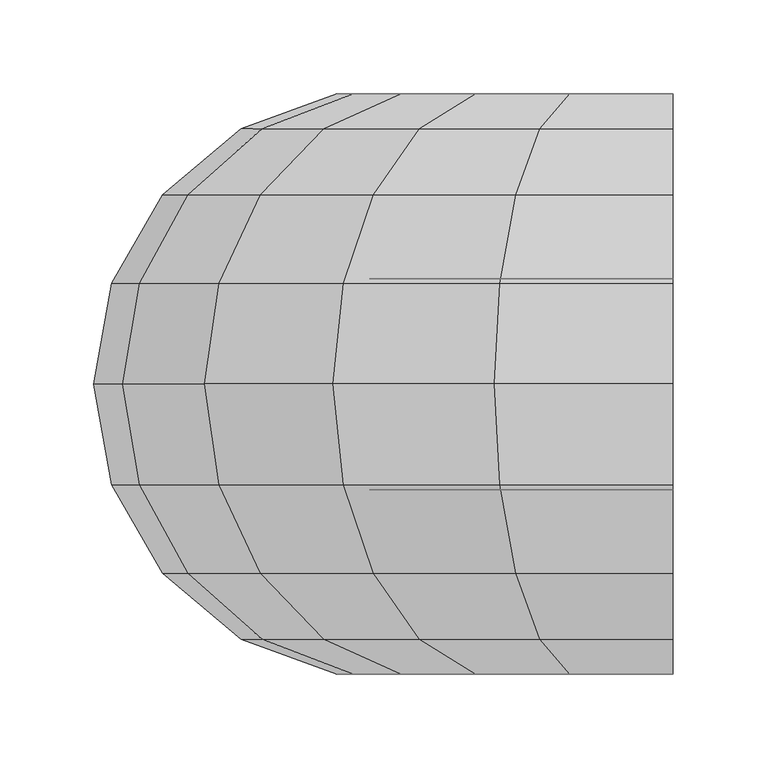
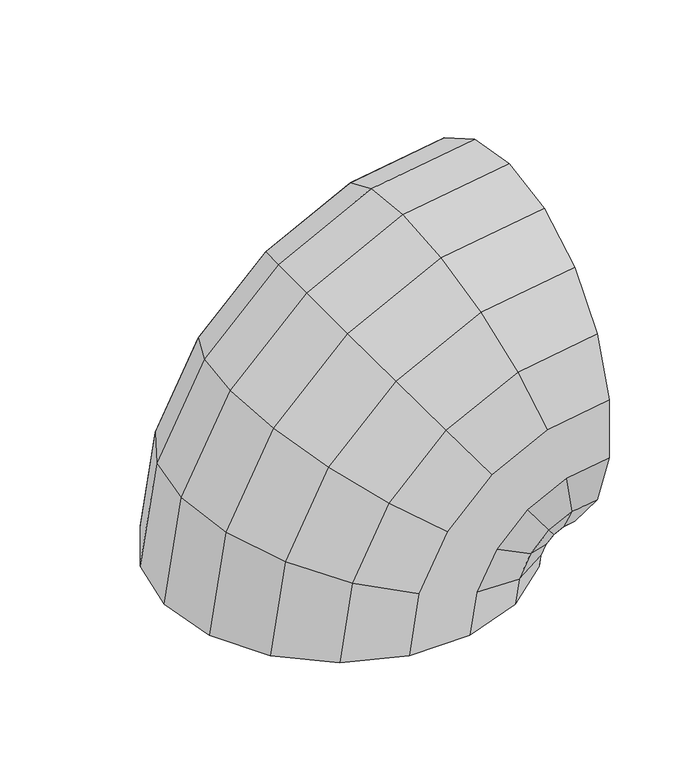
"""IFC4 building model written with IfcOpenShell, lengths in millimetres: proxy geometry, Rohrbogen 7887 : Rohrbogen 7887."""

import ifcopenshell
import ifcopenshell.guid

model = None  # the IFC model being written
_history = None  # IfcOwnerHistory: only IFC2X3 demands one
_inside = {}  # id of a spatial element -> (the spatial element, [elements in it])
_under = {}  # id of a project, library or spatial element -> (it, [spatial elements below it])
_declared = {}  # id of a project -> (the project, [libraries it declares])
_typed = {}  # id of a type object -> (the type object, [elements of that type])
_made_of = {}  # id of a material, layer set ... -> (it, [elements and type objects made of it])


def new_model(schema):
    """Start an empty IFC model of exactly this schema.

    Asked for "IFC4X3", IfcOpenShell would pick the latest addendum, in which some entities
    have other attributes; the version numbers below select the first issue.
    IFC2X3 requires an IfcOwnerHistory on every rooted entity: one is made here for all.
    """
    global model, _history
    if schema == "IFC4X3":
        model = ifcopenshell.file(schema_version=(4, 3, 0, 0))
    else:
        model = ifcopenshell.file(schema=schema)
    _inside.clear()
    _under.clear()
    _declared.clear()
    _typed.clear()
    _made_of.clear()
    _history = None
    if model.schema == "IFC2X3":
        org = make("IfcOrganization", Name="unknown")
        user = make(
            "IfcPersonAndOrganization",
            ThePerson=make("IfcPerson", FamilyName="unknown"),
            TheOrganization=org,
        )
        app = make(
            "IfcApplication",
            ApplicationDeveloper=org,
            Version="unknown",
            ApplicationFullName="unknown",
            ApplicationIdentifier="unknown",
        )
        _history = make(
            "IfcOwnerHistory",
            OwningUser=user,
            OwningApplication=app,
            ChangeAction="ADDED",
            CreationDate=0,
        )
    return model


def make(cls, **values):
    """One entity of the class cls with the attributes given. An attribute that is None is left unset."""
    return model.create_entity(
        cls, **{name: value for name, value in values.items() if value is not None}
    )


def rooted(cls, **values):
    """An entity with a GlobalId (a new one), such as an element, a storey or a relation."""
    return make(cls, GlobalId=ifcopenshell.guid.new(), OwnerHistory=_history, **values)


def si_unit(unit_type, name, prefix=None):
    """IfcSIUnit, for example si_unit("LENGTHUNIT", "METRE", prefix="MILLI")."""
    return make("IfcSIUnit", UnitType=unit_type, Prefix=prefix, Name=name)


def assignment(units):
    """IfcUnitAssignment: the units of a project."""
    return None if units is None else make("IfcUnitAssignment", Units=units)


def point(xyz):
    """IfcCartesianPoint."""
    return None if xyz is None else make("IfcCartesianPoint", Coordinates=xyz)


def direction(xyz):
    """IfcDirection."""
    return None if xyz is None else make("IfcDirection", DirectionRatios=xyz)


def frame(location, z_axis=None, x_axis=None):
    """IfcAxis2Placement3D, a coordinate frame: its origin and axes. An axis left out is left unset."""
    return make(
        "IfcAxis2Placement3D",
        Location=point(location),
        Axis=direction(z_axis),
        RefDirection=direction(x_axis),
    )


def origin():
    """The frame at (0, 0, 0) with its axes left unset."""
    return frame((0.0, 0.0, 0.0))


def place(relative_to, where):
    """IfcLocalPlacement: puts the frame where relative to a parent placement (None: the world)."""
    return make(
        "IfcLocalPlacement", PlacementRelTo=relative_to, RelativePlacement=where
    )


def context(
    kind, dimensions, precision=None, world=None, true_north=None, identifier=None
):
    """IfcGeometricRepresentationContext, for example the 3D "Model" context."""
    return make(
        "IfcGeometricRepresentationContext",
        ContextIdentifier=identifier,
        ContextType=kind,
        CoordinateSpaceDimension=dimensions,
        Precision=precision,
        WorldCoordinateSystem=world,
        TrueNorth=true_north,
    )


def project(units=None, contexts=None):
    """IfcProject with its units and contexts."""
    return rooted(
        "IfcProject",
        Name="project",
        RepresentationContexts=contexts,
        UnitsInContext=assignment(units),
    )


def spatial(cls, under=None, at=None, **own):
    """A site, building, storey or space (cls), placed at a placement, below another one or the project."""
    s = rooted(cls, ObjectPlacement=at, **own)
    if under is not None:
        _under.setdefault(under.id(), (under, []))[1].append(s)
    return s


def point_list(points):
    """IfcCartesianPointList2D or 3D."""
    cls = (
        "IfcCartesianPointList2D" if len(points[0]) == 2 else "IfcCartesianPointList3D"
    )
    return make(cls, CoordList=points)


def triangles(points, corners, closed=None, point_numbers=None):
    """IfcTriangulatedFaceSet: each triangle names its three corners, points numbered from 1."""
    return make(
        "IfcTriangulatedFaceSet",
        Coordinates=point_list(points),
        Closed=closed,
        CoordIndex=corners,
        PnIndex=point_numbers,
    )


def shape(context_of_items, identifier, shape_type, items):
    """IfcShapeRepresentation: the items that make up one representation, for example the "Body"."""
    return make(
        "IfcShapeRepresentation",
        ContextOfItems=context_of_items,
        RepresentationIdentifier=identifier,
        RepresentationType=shape_type,
        Items=items,
    )


def source(mapping_origin, context_of_items, identifier, shape_type, items):
    """IfcRepresentationMap: a shape defined once, which mapped items show again and again."""
    return make(
        "IfcRepresentationMap",
        MappingOrigin=mapping_origin,
        MappedRepresentation=shape(context_of_items, identifier, shape_type, items),
    )


def transform(
    local_origin,
    x_axis=None,
    y_axis=None,
    z_axis=None,
    scale=None,
    scale2=None,
    scale3=None,
    uniform=True,
):
    """IfcCartesianTransformationOperator3D, or its non-uniform kind. x_axis, y_axis, z_axis: its Axis1, 2, 3."""
    if uniform:
        return make(
            "IfcCartesianTransformationOperator3D",
            Axis1=direction(x_axis),
            Axis2=direction(y_axis),
            LocalOrigin=point(local_origin),
            Scale=scale,
            Axis3=direction(z_axis),
        )
    return make(
        "IfcCartesianTransformationOperator3DnonUniform",
        Axis1=direction(x_axis),
        Axis2=direction(y_axis),
        LocalOrigin=point(local_origin),
        Scale=scale,
        Axis3=direction(z_axis),
        Scale2=scale2,
        Scale3=scale3,
    )


def mapped(mapping_source, mapping_target):
    """IfcMappedItem: shows the shape of a source again, moved by a transform."""
    return make(
        "IfcMappedItem", MappingSource=mapping_source, MappingTarget=mapping_target
    )


def made_of(thing, what):
    """Note that an element or type object is made of a material, layer set ...; save() writes the relation."""
    if what is not None:
        _made_of.setdefault(what.id(), (what, []))[1].append(thing)
    return thing


def element(
    cls,
    number,
    at=None,
    inside=None,
    cuts=None,
    type_object=None,
    material=None,
    context=None,
    identifier="Body",
    shape_type=None,
    held_by="IfcProductDefinitionShape",
    body=None,
    shapes=None,
    **own,
):
    """One element of the class cls, such as IfcWall. Its Tag is "e" and its number.

    at: its placement. inside: the storey or other place that contains it. cuts: it is an
    opening in that element (IfcRelVoidsElement). A single representation is given by context,
    identifier, shape_type and body (its items); several are given by shapes. held_by: the class
    of the entity that holds the representations. save() writes the other relations.
    """
    e = rooted(cls, Tag="e%d" % number, ObjectPlacement=at, **own)
    if body is not None:
        shapes = [shape(context, identifier, shape_type, body)]
    if shapes is not None:
        e.Representation = make(held_by, Representations=shapes)
    if inside is not None:
        _inside.setdefault(inside.id(), (inside, []))[1].append(e)
    if cuts is not None:
        rooted(
            "IfcRelVoidsElement", RelatingBuildingElement=cuts, RelatedOpeningElement=e
        )
    if type_object is not None:
        _typed.setdefault(type_object.id(), (type_object, []))[1].append(e)
    return made_of(e, material)


def aggregate(whole, parts):
    """IfcRelAggregates: a whole, such as a stair, and the parts it consists of."""
    return rooted("IfcRelAggregates", RelatingObject=whole, RelatedObjects=parts)


def save(model, path):
    """Write the relations noted so far, then the file.

    IfcRelAggregates (storeys below a building ...), IfcRelContainedInSpatialStructure (elements
    in a storey), IfcRelDefinesByType, IfcRelAssociatesMaterial and IfcRelDeclares: one each for
    every whole, place, type object, material and project.
    """
    for whole, parts in _under.values():
        aggregate(whole, parts)
    for where, things in _inside.values():
        rooted(
            "IfcRelContainedInSpatialStructure",
            RelatedElements=things,
            RelatingStructure=where,
        )
    for kind, things in _typed.values():
        rooted("IfcRelDefinesByType", RelatedObjects=things, RelatingType=kind)
    for what, things in _made_of.values():
        rooted("IfcRelAssociatesMaterial", RelatedObjects=things, RelatingMaterial=what)
    for by, libraries in _declared.values():
        rooted("IfcRelDeclares", RelatingContext=by, RelatedDefinitions=libraries)
    model.write(path)


def generic_models_468b5ed0(model_context):
    return source(origin(), model_context, "Body", "Tessellation", [
        triangles([(17569.082254, 7355.9190262, 6518.3997986), (17572.5285553, 7336.3725449, 6518.3997986), (17582.5965454, 7336.3725449, 6581.965686), (17579.3188385, 7355.9190262, 6583.0307373), (17611.8145294, 7336.3725449, 6639.3092789), (17609.0263275, 7355.9190262, 6641.335318), (17657.3233795, 7336.3725449, 6684.8175476), (17655.296759, 7355.9190262, 6687.6057495), (17714.666391, 7336.3725449, 6714.0355316), (17713.6013397, 7355.9190262, 6717.3132385), (17778.2322784, 7336.3725449, 6724.1035217), (17778.2322784, 7355.9190262, 6727.549823), (17582.4535309, 7319.1834778, 6518.3997986), (17592.0355042, 7319.1834778, 6578.8990128), (17619.8431091, 7319.1834778, 6633.4764954), (17663.1567444, 7319.1834778, 6676.7889679), (17717.7336456, 7319.1834778, 6704.5971542), (17778.2322784, 7319.1834778, 6714.1797089), (17597.657254, 7306.4255356, 6518.3997986), (17606.4950867, 7306.4255356, 6574.2004623), (17632.1446838, 7306.4255356, 6624.5392502), (17672.0934082, 7306.4255356, 6664.4879745), (17722.432196, 7306.4255356, 6690.1369904), (17778.2322784, 7306.4255356, 6698.974823), (17616.3084412, 7299.6369965, 6518.3997986), (17624.2335388, 7299.6369965, 6568.437442), (17647.2332977, 7299.6369965, 6613.5765472), (17683.0555298, 7299.6369965, 6649.3993607), (17728.194635, 7299.6369965, 6672.3991196), (17778.2322784, 7299.6369965, 6680.3242172), (17636.1560669, 7299.6369965, 6518.3997986), (17643.1102936, 7299.6369965, 6562.3040955), (17663.2904572, 7299.6369965, 6601.9103989), (17694.7222595, 7299.6369965, 6633.3416199), (17734.3279816, 7299.6369965, 6653.5223648), (17778.2322784, 7299.6369965, 6660.4760101), (17654.807254, 7306.4255356, 6518.3997986), (17660.8487457, 7306.4255356, 6556.5404938), (17678.379071, 7306.4255356, 6590.9471146), (17705.6855438, 7306.4255356, 6618.253006), (17740.0915833, 7306.4255356, 6635.7839127), (17778.2322784, 7306.4255356, 6641.824823), (17670.0121399, 7319.1834778, 6518.3997986), (17675.3083282, 7319.1834778, 6551.8419434), (17690.6806458, 7319.1834778, 6582.0104507), (17714.6222076, 7319.1834778, 6605.9520126), (17744.7901337, 7319.1834778, 6621.3237488), (17778.2322784, 7319.1834778, 6626.6205185), (17679.9359528, 7336.3725449, 6518.3997986), (17684.747287, 7336.3725449, 6548.7752701), (17698.7092255, 7336.3725449, 6576.1770859), (17720.4555725, 7336.3725449, 6597.9234329), (17747.8573883, 7336.3725449, 6611.8853714), (17778.2322784, 7336.3725449, 6616.6967056), (17683.382254, 7355.9190262, 6518.3997986), (17688.0249939, 7355.9190262, 6547.7102188), (17701.4974274, 7355.9190262, 6574.1516281), (17722.4810303, 7355.9190262, 6595.135231), (17748.9224396, 7355.9190262, 6608.6076645), (17778.2322784, 7355.9190262, 6613.249823), (17679.9359528, 7375.4655075, 6518.3997986), (17684.747287, 7375.4655075, 6548.7752701), (17698.7092255, 7375.4655075, 6576.1770859), (17720.4555725, 7375.4655075, 6597.9234329), (17747.8573883, 7375.4655075, 6611.8853714), (17778.2322784, 7375.4655075, 6616.6967056), (17670.0121399, 7392.6545746, 6518.3997986), (17675.3083282, 7392.6545746, 6551.8419434), (17690.6806458, 7392.6545746, 6582.0104507), (17714.6222076, 7392.6545746, 6605.9520126), (17744.7901337, 7392.6545746, 6621.3237488), (17778.2322784, 7392.6545746, 6626.6205185), (17654.807254, 7405.4125168, 6518.3997986), (17660.8487457, 7405.4125168, 6556.5404938), (17678.379071, 7405.4125168, 6590.9471146), (17705.6855438, 7405.4125168, 6618.253006), (17740.0915833, 7405.4125168, 6635.7839127), (17778.2322784, 7405.4125168, 6641.824823), (17636.1560669, 7412.2010559, 6518.3997986), (17643.1102936, 7412.2010559, 6562.3040955), (17663.2904572, 7412.2010559, 6601.9103989), (17694.7222595, 7412.2010559, 6633.3416199), (17734.3279816, 7412.2010559, 6653.5223648), (17778.2322784, 7412.2010559, 6660.4760101), (17616.3084412, 7412.2010559, 6518.3997986), (17624.2335388, 7412.2010559, 6568.437442), (17647.2332977, 7412.2010559, 6613.5765472), (17683.0555298, 7412.2010559, 6649.3993607), (17728.194635, 7412.2010559, 6672.3991196), (17778.2322784, 7412.2010559, 6680.3242172), (17597.657254, 7405.4125168, 6518.3997986), (17606.4950867, 7405.4125168, 6574.2004623), (17632.1446838, 7405.4125168, 6624.5392502), (17672.0934082, 7405.4125168, 6664.4879745), (17722.432196, 7405.4125168, 6690.1369904), (17778.2322784, 7405.4125168, 6698.974823), (17582.4535309, 7392.6545746, 6518.3997986), (17592.0355042, 7392.6545746, 6578.8990128), (17619.8431091, 7392.6545746, 6633.4764954), (17663.1567444, 7392.6545746, 6676.7889679), (17717.7336456, 7392.6545746, 6704.5971542), (17778.2322784, 7392.6545746, 6714.1797089), (17572.5285553, 7375.4655075, 6518.3997986), (17582.5965454, 7375.4655075, 6581.965686), (17611.8145294, 7375.4655075, 6639.3092789), (17657.3233795, 7375.4655075, 6684.8175476), (17714.666391, 7375.4655075, 6714.0355316), (17778.2322784, 7375.4655075, 6724.1035217), (17469.0825439, 7355.9190262, 6518.3997986), (17478.5598724, 7302.1705627, 6518.3997986), (17493.2264191, 7302.1705627, 6611.0040298), (17484.2130157, 7355.9190262, 6613.9323395), (17535.7924255, 7302.1705627, 6694.5431168), (17528.1242889, 7355.9190262, 6700.113707), (17602.0895416, 7302.1705627, 6760.8402328), (17596.5189514, 7355.9190262, 6768.5077881), (17685.6286285, 7302.1705627, 6803.405658), (17682.6997375, 7355.9190262, 6812.4190613), (17778.2322784, 7302.1705627, 6818.0727859), (17778.2322784, 7355.9190262, 6827.5501144), (17505.8489044, 7254.9048431, 6518.3997986), (17519.1794861, 7254.9048431, 6602.571405), (17557.868985, 7254.9048431, 6678.5033981), (17618.1292603, 7254.9048431, 6738.763092), (17694.060672, 7254.9048431, 6777.4525909), (17778.2322784, 7254.9048431, 6790.783754), (17547.6579803, 7219.8232635, 6518.3997986), (17558.9421753, 7219.8232635, 6589.6518448), (17591.6936646, 7219.8232635, 6653.9287354), (17642.7033417, 7219.8232635, 6704.9389938), (17706.9808136, 7219.8232635, 6737.6899017), (17778.2322784, 7219.8232635, 6748.9752594), (17598.943222, 7201.1563797, 6518.3997986), (17607.7182678, 7201.1563797, 6573.8033936), (17633.185318, 7201.1563797, 6623.7834824), (17672.849176, 7201.1563797, 6663.4479218), (17722.8286835, 7201.1563797, 6688.9138092), (17778.2322784, 7201.1563797, 6697.688855), (17653.521286, 7201.1563797, 6518.3997986), (17659.6255646, 7201.1563797, 6556.9381439), (17677.3384369, 7201.1563797, 6591.7034637), (17704.9286133, 7201.1563797, 6619.2936401), (17739.6950958, 7201.1563797, 6637.0076752), (17778.2322784, 7201.1563797, 6643.1113724), (17704.8076904, 7219.8232635, 6518.3997986), (17708.4016571, 7219.8232635, 6541.0896927), (17718.8300903, 7219.8232635, 6561.5582108), (17735.0744476, 7219.8232635, 6577.8019867), (17755.5429657, 7219.8232635, 6588.2315826), (17778.2322784, 7219.8232635, 6591.824968), (17746.6167664, 7254.9048431, 6518.3997986), (17748.1631836, 7254.9048431, 6528.1701324), (17752.6547699, 7254.9048431, 6536.983548), (17759.6485291, 7254.9048431, 6543.9778885), (17768.4619446, 7254.9048431, 6548.4688934), (17778.2322784, 7254.9048431, 6550.015892), (17773.9046356, 7302.1705627, 6518.3997986), (17774.1174133, 7302.1705627, 6519.7369263), (17774.7313293, 7302.1705627, 6520.943248), (17775.6894104, 7302.1705627, 6521.9007477), (17776.8951508, 7302.1705627, 6522.5152451), (17778.2322784, 7302.1705627, 6522.7274414), (17778.2322784, 7326.7132507, 6518.3997986), (17778.2322784, 7326.0452682, 6519.1433578), (17778.2322784, 7385.7927841, 6519.1433578), (17774.1174133, 7409.6674896, 6519.7369263), (17778.2322784, 7385.1248016, 6518.3997986), (17773.9046356, 7409.6674896, 6518.3997986), (17774.7313293, 7409.6674896, 6520.943248), (17775.6894104, 7409.6674896, 6521.9007477), (17776.8951508, 7409.6674896, 6522.5152451), (17778.2322784, 7409.6674896, 6522.7274414), (17746.6167664, 7456.9332092, 6518.3997986), (17748.1631836, 7456.9332092, 6528.1701324), (17752.6547699, 7456.9332092, 6536.983548), (17759.6485291, 7456.9332092, 6543.9778885), (17768.4619446, 7456.9332092, 6548.4688934), (17778.2322784, 7456.9332092, 6550.015892), (17704.8076904, 7492.0147888, 6518.3997986), (17708.4016571, 7492.0147888, 6541.0896927), (17718.8300903, 7492.0147888, 6561.5582108), (17735.0744476, 7492.0147888, 6577.8019867), (17755.5429657, 7492.0147888, 6588.2315826), (17778.2322784, 7492.0147888, 6591.824968), (17653.521286, 7510.6816727, 6518.3997986), (17659.6255646, 7510.6816727, 6556.9381439), (17677.3384369, 7510.6816727, 6591.7034637), (17704.9286133, 7510.6816727, 6619.2936401), (17739.6950958, 7510.6816727, 6637.0076752), (17778.2322784, 7510.6816727, 6643.1113724), (17598.943222, 7510.6816727, 6518.3997986), (17607.7182678, 7510.6816727, 6573.8033936), (17633.185318, 7510.6816727, 6623.7834824), (17672.849176, 7510.6816727, 6663.4479218), (17722.8286835, 7510.6816727, 6688.9138092), (17778.2322784, 7510.6816727, 6697.688855), (17547.6579803, 7492.0147888, 6518.3997986), (17558.9421753, 7492.0147888, 6589.6518448), (17591.6936646, 7492.0147888, 6653.9287354), (17642.7033417, 7492.0147888, 6704.9389938), (17706.9808136, 7492.0147888, 6737.6899017), (17778.2322784, 7492.0147888, 6748.9752594), (17505.8489044, 7456.9332092, 6518.3997986), (17519.1794861, 7456.9332092, 6602.571405), (17557.868985, 7456.9332092, 6678.5033981), (17618.1292603, 7456.9332092, 6738.763092), (17694.060672, 7456.9332092, 6777.4525909), (17778.2322784, 7456.9332092, 6790.783754), (17478.5598724, 7409.6674896, 6518.3997986), (17493.2264191, 7409.6674896, 6611.0040298), (17535.7924255, 7409.6674896, 6694.5431168), (17602.0895416, 7409.6674896, 6760.8402328), (17685.6286285, 7409.6674896, 6803.405658), (17778.2322784, 7409.6674896, 6818.0727859)], [[4, 1, 3], [2, 3, 1], [6, 4, 5], [3, 5, 4], [8, 6, 7], [5, 7, 6], [10, 8, 7], [7, 9, 10], [12, 10, 9], [9, 11, 12], [3, 2, 14], [13, 14, 2], [5, 3, 15], [14, 15, 3], [7, 5, 16], [15, 16, 5], [9, 7, 17], [16, 17, 7], [11, 9, 18], [17, 18, 9], [14, 13, 19], [19, 20, 14], [15, 14, 20], [20, 21, 15], [16, 15, 22], [21, 22, 15], [17, 16, 22], [22, 23, 17], [18, 17, 23], [23, 24, 18], [20, 19, 25], [25, 26, 20], [21, 20, 27], [26, 27, 20], [22, 21, 27], [27, 28, 22], [23, 22, 28], [28, 29, 23], [24, 23, 29], [29, 30, 24], [26, 25, 31], [31, 32, 26], [27, 26, 33], [32, 33, 26], [28, 27, 33], [33, 34, 28], [29, 28, 34], [34, 35, 29], [30, 29, 36], [35, 36, 29], [32, 31, 38], [37, 38, 31], [33, 32, 39], [38, 39, 32], [34, 33, 40], [39, 40, 33], [35, 34, 41], [40, 41, 34], [36, 35, 42], [41, 42, 35], [38, 37, 44], [43, 44, 37], [39, 38, 45], [44, 45, 38], [40, 39, 46], [45, 46, 39], [41, 40, 47], [46, 47, 40], [42, 41, 47], [47, 48, 42], [44, 43, 49], [49, 50, 44], [45, 44, 50], [50, 51, 45], [46, 45, 51], [51, 52, 46], [47, 46, 52], [52, 53, 47], [48, 47, 53], [53, 54, 48], [50, 49, 55], [55, 56, 50], [51, 50, 57], [56, 57, 50], [52, 51, 57], [57, 58, 52], [53, 52, 59], [58, 59, 52], [54, 53, 60], [59, 60, 53], [56, 55, 61], [61, 62, 56], [57, 56, 62], [62, 63, 57], [58, 57, 64], [63, 64, 57], [59, 58, 65], [64, 65, 58], [60, 59, 66], [65, 66, 59], [62, 61, 68], [67, 68, 61], [63, 62, 69], [68, 69, 62], [64, 63, 69], [69, 70, 64], [65, 64, 70], [70, 71, 65], [66, 65, 72], [71, 72, 65], [68, 67, 73], [73, 74, 68], [69, 68, 74], [74, 75, 69], [70, 69, 76], [75, 76, 69], [71, 70, 77], [76, 77, 70], [72, 71, 78], [77, 78, 71], [74, 73, 80], [79, 80, 73], [75, 74, 80], [80, 81, 75], [76, 75, 81], [81, 82, 76], [77, 76, 82], [82, 83, 77], [78, 77, 84], [83, 84, 77], [80, 79, 86], [85, 86, 79], [81, 80, 87], [86, 87, 80], [82, 81, 88], [87, 88, 81], [83, 82, 89], [88, 89, 82], [84, 83, 89], [89, 90, 84], [86, 85, 91], [91, 92, 86], [87, 86, 92], [92, 93, 87], [88, 87, 93], [93, 94, 88], [89, 88, 95], [94, 95, 88], [90, 89, 96], [95, 96, 89], [92, 91, 98], [97, 98, 91], [93, 92, 98], [98, 99, 93], [94, 93, 99], [99, 100, 94], [95, 94, 100], [100, 101, 95], [96, 95, 101], [101, 102, 96], [98, 97, 103], [103, 104, 98], [99, 98, 105], [104, 105, 98], [100, 99, 106], [105, 106, 99], [101, 100, 106], [106, 107, 101], [102, 101, 107], [107, 108, 102], [104, 103, 1], [1, 4, 104], [105, 104, 4], [4, 6, 105], [106, 105, 6], [6, 8, 106], [107, 106, 10], [8, 10, 106], [108, 107, 12], [10, 12, 107], [112, 109, 110], [110, 111, 112], [114, 112, 113], [111, 113, 112], [116, 114, 115], [113, 115, 114], [118, 116, 115], [115, 117, 118], [120, 118, 117], [117, 119, 120], [111, 110, 121], [121, 122, 111], [113, 111, 122], [122, 123, 113], [115, 113, 124], [123, 124, 113], [117, 115, 124], [124, 125, 117], [119, 117, 125], [125, 126, 119], [122, 121, 127], [127, 128, 122], [123, 122, 128], [128, 129, 123], [124, 123, 129], [129, 130, 124], [125, 124, 130], [130, 131, 125], [126, 125, 131], [131, 132, 126], [128, 127, 133], [133, 134, 128], [129, 128, 135], [134, 135, 128], [130, 129, 135], [135, 136, 130], [131, 130, 137], [136, 137, 130], [132, 131, 138], [137, 138, 131], [134, 133, 140], [139, 140, 133], [135, 134, 140], [140, 141, 135], [136, 135, 141], [141, 142, 136], [137, 136, 142], [142, 143, 137], [138, 137, 143], [143, 144, 138], [140, 139, 145], [145, 146, 140], [141, 140, 146], [146, 147, 141], [142, 141, 147], [147, 148, 142], [143, 142, 149], [148, 149, 142], [144, 143, 149], [149, 150, 144], [146, 145, 152], [151, 152, 145], [147, 146, 153], [152, 153, 146], [148, 147, 153], [153, 154, 148], [149, 148, 155], [154, 155, 148], [150, 149, 156], [155, 156, 149], [152, 151, 157], [157, 158, 152], [153, 152, 159], [158, 159, 152], [154, 153, 159], [159, 160, 154], [155, 154, 160], [160, 161, 155], [156, 155, 161], [161, 162, 156], [163, 158, 164], [163, 164, 157], [158, 157, 164], [159, 158, 163], [160, 159, 163], [161, 160, 163], [162, 161, 163], [167, 165, 166], [168, 166, 165], [165, 167, 168], [166, 169, 167], [167, 169, 170], [170, 171, 167], [171, 172, 167], [166, 168, 174], [173, 174, 168], [169, 166, 174], [174, 175, 169], [170, 169, 176], [175, 176, 169], [171, 170, 177], [176, 177, 170], [172, 171, 177], [177, 178, 172], [174, 173, 179], [179, 180, 174], [175, 174, 180], [180, 181, 175], [176, 175, 182], [181, 182, 175], [177, 176, 183], [182, 183, 176], [178, 177, 183], [183, 184, 178], [180, 179, 185], [185, 186, 180], [181, 180, 187], [186, 187, 180], [182, 181, 187], [187, 188, 182], [183, 182, 188], [188, 189, 183], [184, 183, 190], [189, 190, 183], [186, 185, 191], [191, 192, 186], [187, 186, 193], [192, 193, 186], [188, 187, 194], [193, 194, 187], [189, 188, 195], [194, 195, 188], [190, 189, 196], [195, 196, 189], [192, 191, 198], [197, 198, 191], [193, 192, 198], [198, 199, 193], [194, 193, 200], [199, 200, 193], [195, 194, 200], [200, 201, 195], [196, 195, 201], [201, 202, 196], [198, 197, 204], [203, 204, 197], [199, 198, 205], [204, 205, 198], [200, 199, 206], [205, 206, 199], [201, 200, 207], [206, 207, 200], [202, 201, 208], [207, 208, 201], [204, 203, 209], [209, 210, 204], [205, 204, 211], [210, 211, 204], [206, 205, 211], [211, 212, 206], [207, 206, 212], [212, 213, 207], [208, 207, 214], [213, 214, 207], [210, 209, 109], [109, 112, 210], [211, 210, 114], [112, 114, 210], [212, 211, 114], [114, 116, 212], [213, 212, 118], [116, 118, 212], [214, 213, 120], [118, 120, 213]], closed=False),
    ])


if __name__ == "__main__":
    model = new_model("IFC4")
    model_context = context("Model", 3, world=origin())
    ifc_project = project(units=[si_unit("LENGTHUNIT", "METRE", prefix="MILLI")], contexts=[model_context])
    site = spatial("IfcSite", under=ifc_project)
    building = spatial("IfcBuilding", under=site)
    placement = place(None, origin())
    generic_models_shape = generic_models_468b5ed0(model_context)
    element("IfcBuildingElementProxy", 1, Name="Rohrbogen 7887 : Rohrbogen 7887", ObjectType="Rohrbogen 7887 : Rohrbogen 7887", at=placement, inside=building, context=model_context, shape_type="MappedRepresentation", body=[
        mapped(generic_models_shape, transform((0.0, 0.0, 0.0), x_axis=(1.0, 0.0, 0.0), y_axis=(0.0, 1.0, 0.0), z_axis=(0.0, 0.0, 1.0))),
    ])
    save(model, "model.ifc")
